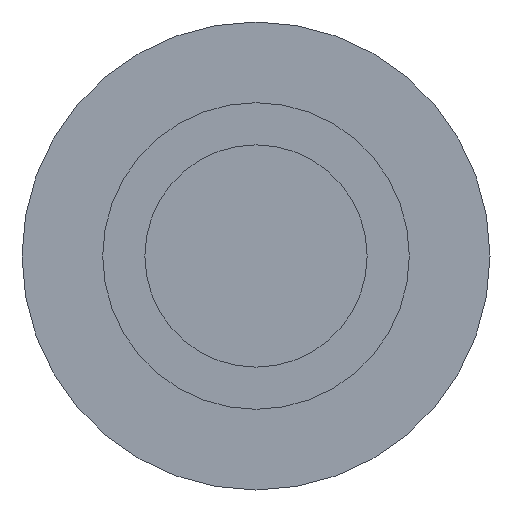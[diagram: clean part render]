
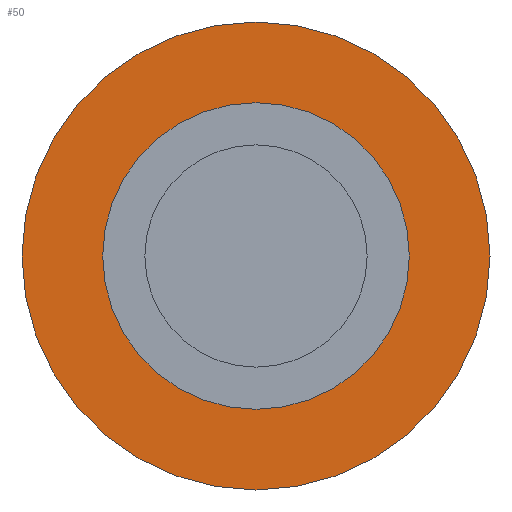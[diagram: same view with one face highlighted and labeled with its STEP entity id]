
A CAD part, left-side view. The second image highlights one B-rep face of the part: STEP entity #50.
In plain terms, the highlighted planar face has unit normal (-1, 0, 0).
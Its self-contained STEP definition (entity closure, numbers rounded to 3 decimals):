
#41=PLANE('',#138);
#50=ADVANCED_FACE('',(#62,#63),#41,.T.);
#62=FACE_BOUND('',#78,.T.);
#63=FACE_BOUND('',#79,.T.);
#78=EDGE_LOOP('',(#94));
#79=EDGE_LOOP('',(#95));
#94=ORIENTED_EDGE('',*,*,#114,.T.);
#95=ORIENTED_EDGE('',*,*,#113,.F.);
#105=VERTEX_POINT('',#195);
#106=VERTEX_POINT('',#198);
#113=EDGE_CURVE('',#105,#105,#121,.T.);
#114=EDGE_CURVE('',#106,#106,#122,.T.);
#121=CIRCLE('',#135,13.1);
#122=CIRCLE('',#137,20.);
#135=AXIS2_PLACEMENT_3D('',#194,#164,#165);
#137=AXIS2_PLACEMENT_3D('',#197,#168,#169);
#138=AXIS2_PLACEMENT_3D('',#199,#170,#171);
#164=DIRECTION('',(-1.,0.,0.));
#165=DIRECTION('',(0.,0.,1.));
#168=DIRECTION('',(-1.,0.,0.));
#169=DIRECTION('',(0.,0.,1.));
#170=DIRECTION('',(-1.,0.,0.));
#171=DIRECTION('',(0.,0.,1.));
#194=CARTESIAN_POINT('',(0.,0.,0.));
#195=CARTESIAN_POINT('',(0.,0.,13.1));
#197=CARTESIAN_POINT('',(0.,0.,0.));
#198=CARTESIAN_POINT('',(0.,0.,20.));
#199=CARTESIAN_POINT('',(0.,13.1,0.));
